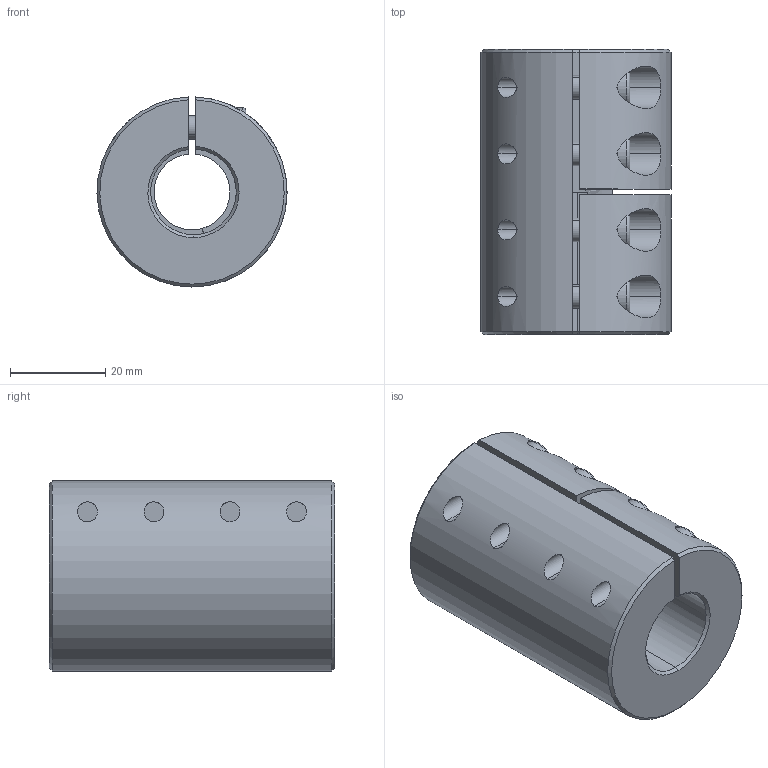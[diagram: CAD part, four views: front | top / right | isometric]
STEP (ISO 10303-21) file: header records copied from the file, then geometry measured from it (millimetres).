
FILE_DESCRIPTION (( 'STEP AP214' ), '1' );
FILE_NAME ('LL-B-D40L60-16-18½¨Ä£.STEP', '2022-07-22T01:02:48', ( '' ), ( '' ), 'SwSTEP 2.0', 'SolidWorks 2022', '' );
FILE_SCHEMA (( 'AUTOMOTIVE_DESIGN' ));
Length unit declared in the file: millimetre
Products named in the file (1): LL-B-D40L60-16-18膘耀
Bounding box: 40 x 60 x 39.99 mm (x, y, z)
Volume: 58677.5 mm3; surface area: 17342.3 mm2
Topology: 1 solids, 1 shells, 176 faces, 444 edges, 278 vertices
Faces by surface type: plane 84, cylinder 70, cone 14, torus 8
Entity records: 5801 total; most frequent: CARTESIAN_POINT 1475, DIRECTION 941, ORIENTED_EDGE 872, EDGE_CURVE 436, AXIS2_PLACEMENT_3D 368, VERTEX_POINT 278, EDGE_LOOP 208, VECTOR 205
